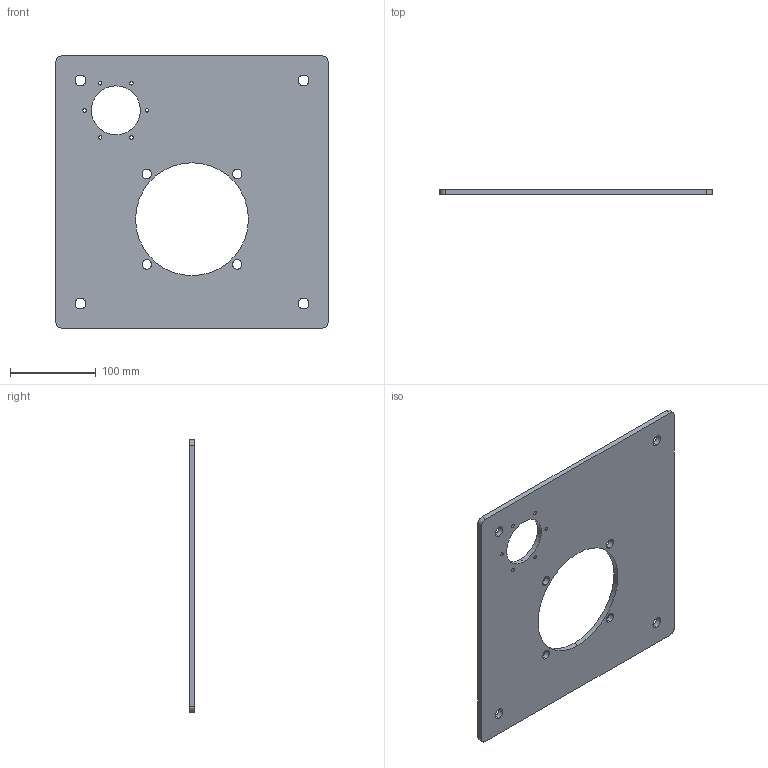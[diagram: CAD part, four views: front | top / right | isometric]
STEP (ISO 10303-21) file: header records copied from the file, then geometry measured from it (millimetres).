
FILE_DESCRIPTION (( 'STEP AP214' ), '1' );
FILE_NAME ('TVL-926.STEP', '2021-04-09T14:52:07', ( '' ), ( '' ), 'SwSTEP 2.0', 'SolidWorks 2013', '' );
FILE_SCHEMA (( 'AUTOMOTIVE_DESIGN' ));
Length unit declared in the file: inch
Products named in the file (1): TVL-926
Bounding box: 317.5 x 6.35 x 317.5 mm (x, y, z)
Volume: 530855.8 mm3; surface area: 181346.1 mm2
Topology: 1 solids, 1 shells, 42 faces, 120 edges, 80 vertices
Faces by surface type: cylinder 36, plane 6
Entity records: 1676 total; most frequent: DIRECTION 278, CARTESIAN_POINT 243, ORIENTED_EDGE 240, EDGE_CURVE 120, AXIS2_PLACEMENT_3D 115, VERTEX_POINT 80, EDGE_LOOP 74, CIRCLE 72
